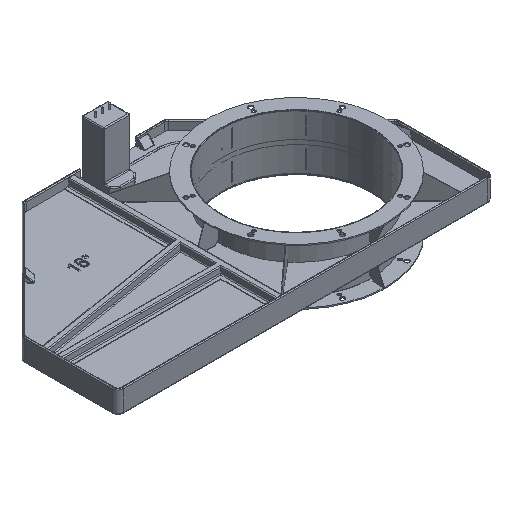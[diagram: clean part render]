
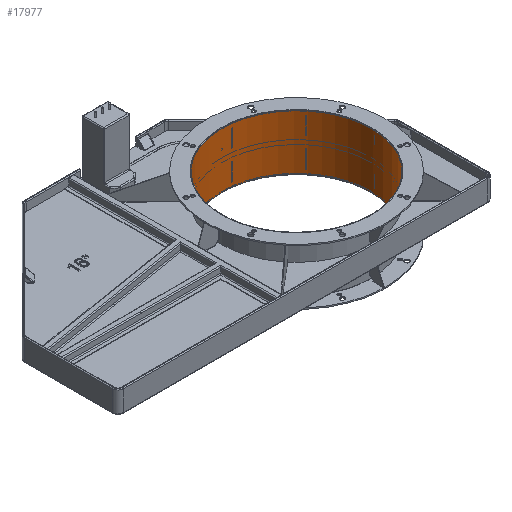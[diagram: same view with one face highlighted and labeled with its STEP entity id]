
A CAD part, isometric view. The second image highlights one B-rep face of the part: STEP entity #17977.
In plain terms, the highlighted free-form (B-spline) face has degree [2, 1] with [9, 2] control points.
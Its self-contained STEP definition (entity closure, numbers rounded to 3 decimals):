
#17910=CARTESIAN_POINT('',(0.,-201.7,-75.15));
#17911=VERTEX_POINT('',#17910);
#17912=CARTESIAN_POINT('',(0.,-201.7,-75.15));
#17913=CARTESIAN_POINT('',(-349.355,-201.7,-75.15));
#17914=CARTESIAN_POINT('',(-174.677,100.85,-75.15));
#17915=CARTESIAN_POINT('',(0.,403.4,-75.15));
#17916=CARTESIAN_POINT('',(174.677,100.85,-75.15));
#17917=CARTESIAN_POINT('',(349.355,-201.7,-75.15));
#17918=CARTESIAN_POINT('',(0.,-201.7,-75.15));
#17919=(BOUNDED_CURVE()B_SPLINE_CURVE(2,(#17912,#17913,#17914,#17915,#17916,#17917,#17918),.CIRCULAR_ARC.,.T.,.U.)B_SPLINE_CURVE_WITH_KNOTS((3,2,2,3),(0.,0.333,0.667,1.),.UNSPECIFIED.)CURVE()GEOMETRIC_REPRESENTATION_ITEM()RATIONAL_B_SPLINE_CURVE((1.,0.5,1.,0.5,1.,0.5,1.))REPRESENTATION_ITEM(''));
#17920=EDGE_CURVE('',#17911,#17911,#17919,.T.);
#17933=CARTESIAN_POINT('',(0.,-201.7,75.15));
#17934=VERTEX_POINT('',#17933);
#17935=CARTESIAN_POINT('',(0.,-201.7,75.15));
#17936=CARTESIAN_POINT('',(-349.355,-201.7,75.15));
#17937=CARTESIAN_POINT('',(-174.677,100.85,75.15));
#17938=CARTESIAN_POINT('',(0.,403.4,75.15));
#17939=CARTESIAN_POINT('',(174.677,100.85,75.15));
#17940=CARTESIAN_POINT('',(349.355,-201.7,75.15));
#17941=CARTESIAN_POINT('',(0.,-201.7,75.15));
#17942=(BOUNDED_CURVE()B_SPLINE_CURVE(2,(#17935,#17936,#17937,#17938,#17939,#17940,#17941),.CIRCULAR_ARC.,.T.,.U.)B_SPLINE_CURVE_WITH_KNOTS((3,2,2,3),(0.,0.333,0.667,1.),.UNSPECIFIED.)CURVE()GEOMETRIC_REPRESENTATION_ITEM()RATIONAL_B_SPLINE_CURVE((1.,0.5,1.,0.5,1.,0.5,1.))REPRESENTATION_ITEM(''));
#17943=EDGE_CURVE('',#17934,#17934,#17942,.T.);
#17948=CARTESIAN_POINT('',(0.,-201.7,-75.15));
#17949=CARTESIAN_POINT('',(0.,-201.7,75.15));
#17950=CARTESIAN_POINT('',(201.7,-201.7,-75.15));
#17951=CARTESIAN_POINT('',(201.7,-201.7,75.15));
#17952=CARTESIAN_POINT('',(201.7,0.,-75.15));
#17953=CARTESIAN_POINT('',(201.7,0.,75.15));
#17954=CARTESIAN_POINT('',(201.7,201.7,-75.15));
#17955=CARTESIAN_POINT('',(201.7,201.7,75.15));
#17956=CARTESIAN_POINT('',(0.,201.7,-75.15));
#17957=CARTESIAN_POINT('',(0.,201.7,75.15));
#17958=CARTESIAN_POINT('',(-201.7,201.7,-75.15));
#17959=CARTESIAN_POINT('',(-201.7,201.7,75.15));
#17960=CARTESIAN_POINT('',(-201.7,0.,-75.15));
#17961=CARTESIAN_POINT('',(-201.7,0.,75.15));
#17962=CARTESIAN_POINT('',(-201.7,-201.7,-75.15));
#17963=CARTESIAN_POINT('',(-201.7,-201.7,75.15));
#17964=CARTESIAN_POINT('',(0.,-201.7,-75.15));
#17965=CARTESIAN_POINT('',(0.,-201.7,75.15));
#17966=(BOUNDED_SURFACE()B_SPLINE_SURFACE(2,1,((#17948,#17949),(#17950,#17951),(#17952,#17953),(#17954,#17955),(#17956,#17957),(#17958,#17959),(#17960,#17961),(#17962,#17963),(#17964,#17965)),.CYLINDRICAL_SURF.,.T.,.F.,.U.)B_SPLINE_SURFACE_WITH_KNOTS((3,2,2,2,3),(2,2),(0.,0.25,0.5,0.75,1.),(0.,1.),.UNSPECIFIED.)GEOMETRIC_REPRESENTATION_ITEM()RATIONAL_B_SPLINE_SURFACE(((1.,1.),(0.707,0.707),(1.,1.),(0.707,0.707),(1.,1.),(0.707,0.707),(1.,1.),(0.707,0.707),(1.,1.)))REPRESENTATION_ITEM('')SURFACE());
#17967=ORIENTED_EDGE('',*,*,#17920,.F.);
#17968=CARTESIAN_POINT('',(0.,-201.7,-75.15));
#17969=CARTESIAN_POINT('',(0.,-201.7,75.15));
#17970=B_SPLINE_CURVE_WITH_KNOTS('',1,(#17968,#17969),.POLYLINE_FORM.,.F.,.U.,(2,2),(0.,1.),.UNSPECIFIED.);
#17971=EDGE_CURVE('',#17911,#17934,#17970,.T.);
#17972=ORIENTED_EDGE('',*,*,#17971,.T.);
#17973=ORIENTED_EDGE('',*,*,#17943,.T.);
#17974=ORIENTED_EDGE('',*,*,#17971,.F.);
#17975=EDGE_LOOP('',(#17967,#17972,#17973,#17974));
#17976=FACE_OUTER_BOUND('',#17975,.F.);
#17977=ADVANCED_FACE('',(#17976),#17966,.F.);
